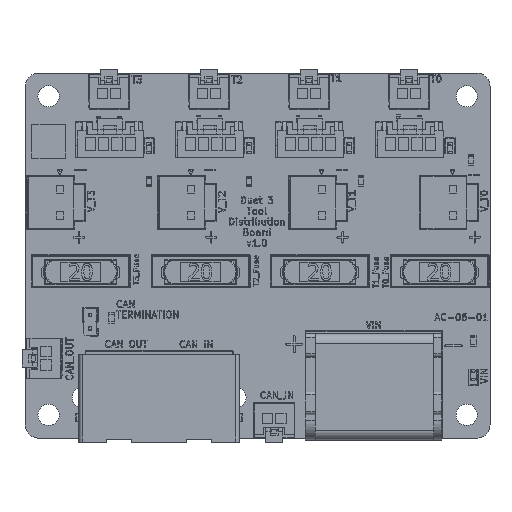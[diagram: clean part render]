
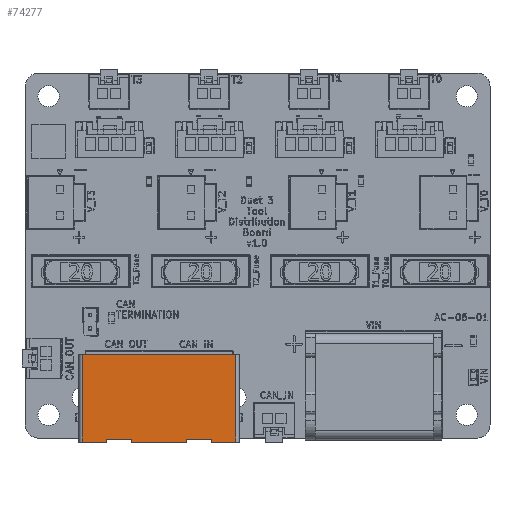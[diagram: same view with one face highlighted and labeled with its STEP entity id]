
A CAD part, top view. The second image highlights one B-rep face of the part: STEP entity #74277.
In plain terms, the highlighted planar face has unit normal (0, 0, 1).
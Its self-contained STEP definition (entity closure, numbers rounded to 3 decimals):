
#6534=LINE('',#109472,#15555);
#6768=LINE('',#110692,#15789);
#7459=LINE('',#112090,#16480);
#7461=LINE('',#112095,#16482);
#7476=LINE('',#112127,#16497);
#7479=LINE('',#112132,#16500);
#7486=LINE('',#112144,#16507);
#7487=LINE('',#112147,#16508);
#7488=LINE('',#112148,#16509);
#7489=LINE('',#112149,#16510);
#7490=LINE('',#112150,#16511);
#7491=LINE('',#112151,#16512);
#15555=VECTOR('',#85257,10.);
#15789=VECTOR('',#85671,10.);
#16480=VECTOR('',#86874,10.);
#16482=VECTOR('',#86878,10.);
#16497=VECTOR('',#86899,10.);
#16500=VECTOR('',#86904,10.);
#16507=VECTOR('',#86915,10.);
#16508=VECTOR('',#86918,10.);
#16509=VECTOR('',#86919,10.);
#16510=VECTOR('',#86920,10.);
#16511=VECTOR('',#86921,10.);
#16512=VECTOR('',#86922,10.);
#25193=FACE_OUTER_BOUND('',#27964,.T.);
#27964=EDGE_LOOP('',(#58704,#58705,#58706,#58707,#58708,#58709,#58710,#58711,
#58712,#58713,#58714,#58715));
#31728=VERTEX_POINT('',#109469);
#31729=VERTEX_POINT('',#109471);
#31945=VERTEX_POINT('',#110689);
#31946=VERTEX_POINT('',#110691);
#32397=VERTEX_POINT('',#112089);
#32398=VERTEX_POINT('',#112093);
#32399=VERTEX_POINT('',#112094);
#32412=VERTEX_POINT('',#112124);
#32413=VERTEX_POINT('',#112126);
#32414=VERTEX_POINT('',#112131);
#32417=VERTEX_POINT('',#112142);
#32418=VERTEX_POINT('',#112146);
#42593=EDGE_CURVE('',#31729,#31728,#6534,.T.);
#42883=EDGE_CURVE('',#31946,#31945,#6768,.T.);
#43576=EDGE_CURVE('',#31946,#32397,#7459,.T.);
#43578=EDGE_CURVE('',#32398,#32399,#7461,.T.);
#43595=EDGE_CURVE('',#32412,#32413,#7476,.T.);
#43598=EDGE_CURVE('',#32397,#32414,#7479,.T.);
#43605=EDGE_CURVE('',#32398,#32417,#7486,.T.);
#43606=EDGE_CURVE('',#32418,#31945,#7487,.T.);
#43607=EDGE_CURVE('',#32413,#32418,#7488,.T.);
#43608=EDGE_CURVE('',#31729,#32412,#7489,.T.);
#43609=EDGE_CURVE('',#31728,#32399,#7490,.T.);
#43610=EDGE_CURVE('',#32414,#32417,#7491,.T.);
#58704=ORIENTED_EDGE('',*,*,#43576,.F.);
#58705=ORIENTED_EDGE('',*,*,#42883,.T.);
#58706=ORIENTED_EDGE('',*,*,#43606,.F.);
#58707=ORIENTED_EDGE('',*,*,#43607,.F.);
#58708=ORIENTED_EDGE('',*,*,#43595,.F.);
#58709=ORIENTED_EDGE('',*,*,#43608,.F.);
#58710=ORIENTED_EDGE('',*,*,#42593,.T.);
#58711=ORIENTED_EDGE('',*,*,#43609,.T.);
#58712=ORIENTED_EDGE('',*,*,#43578,.F.);
#58713=ORIENTED_EDGE('',*,*,#43605,.T.);
#58714=ORIENTED_EDGE('',*,*,#43610,.F.);
#58715=ORIENTED_EDGE('',*,*,#43598,.F.);
#71966=PLANE('',#77852);
#74277=ADVANCED_FACE('',(#25193),#71966,.T.);
#77852=AXIS2_PLACEMENT_3D('',#112145,#86916,#86917);
#85257=DIRECTION('',(1.,0.,0.));
#85671=DIRECTION('',(0.,-1.,0.));
#86874=DIRECTION('',(1.,0.,0.));
#86878=DIRECTION('',(1.,0.,0.));
#86899=DIRECTION('',(1.,0.,0.));
#86904=DIRECTION('',(0.,-1.,0.));
#86915=DIRECTION('',(0.,-1.,0.));
#86916=DIRECTION('center_axis',(0.,0.,1.));
#86917=DIRECTION('ref_axis',(1.,0.,0.));
#86918=DIRECTION('',(1.,0.,0.));
#86919=DIRECTION('',(0.,-1.,0.));
#86920=DIRECTION('',(0.,1.,0.));
#86921=DIRECTION('',(0.,1.,0.));
#86922=DIRECTION('',(1.,0.,0.));
#109469=CARTESIAN_POINT('',(11.557,-6.504,12.65));
#109471=CARTESIAN_POINT('',(-11.557,-6.504,12.65));
#109472=CARTESIAN_POINT('',(-11.557,-6.504,12.65));
#110689=CARTESIAN_POINT('',(-4.128,6.298,12.65));
#110691=CARTESIAN_POINT('',(-4.128,6.704,12.65));
#110692=CARTESIAN_POINT('',(-4.128,6.704,12.65));
#112089=CARTESIAN_POINT('',(4.128,6.704,12.65));
#112090=CARTESIAN_POINT('',(-4.128,6.704,12.65));
#112093=CARTESIAN_POINT('',(7.938,6.704,12.65));
#112094=CARTESIAN_POINT('',(11.557,6.704,12.65));
#112095=CARTESIAN_POINT('',(7.938,6.704,12.65));
#112124=CARTESIAN_POINT('',(-11.557,6.704,12.65));
#112126=CARTESIAN_POINT('',(-7.938,6.704,12.65));
#112127=CARTESIAN_POINT('',(-11.557,6.704,12.65));
#112131=CARTESIAN_POINT('',(4.128,6.298,12.65));
#112132=CARTESIAN_POINT('',(4.128,6.704,12.65));
#112142=CARTESIAN_POINT('',(7.938,6.298,12.65));
#112144=CARTESIAN_POINT('',(7.938,6.704,12.65));
#112145=CARTESIAN_POINT('Origin',(0.,6.704,12.65));
#112146=CARTESIAN_POINT('',(-7.938,6.298,12.65));
#112147=CARTESIAN_POINT('',(-7.938,6.298,12.65));
#112148=CARTESIAN_POINT('',(-7.938,6.704,12.65));
#112149=CARTESIAN_POINT('',(-11.557,-6.504,12.65));
#112150=CARTESIAN_POINT('',(11.557,-6.504,12.65));
#112151=CARTESIAN_POINT('',(4.128,6.298,12.65));
